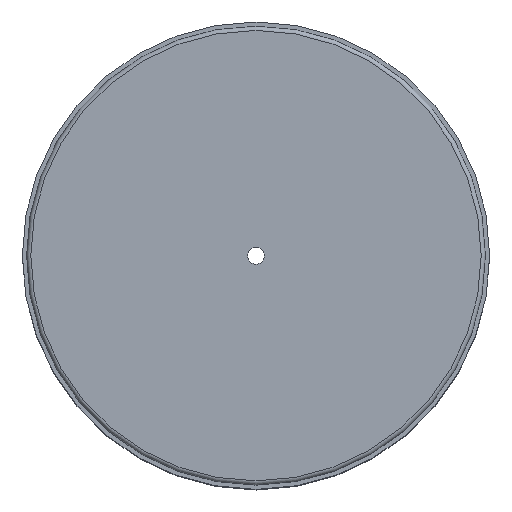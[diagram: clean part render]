
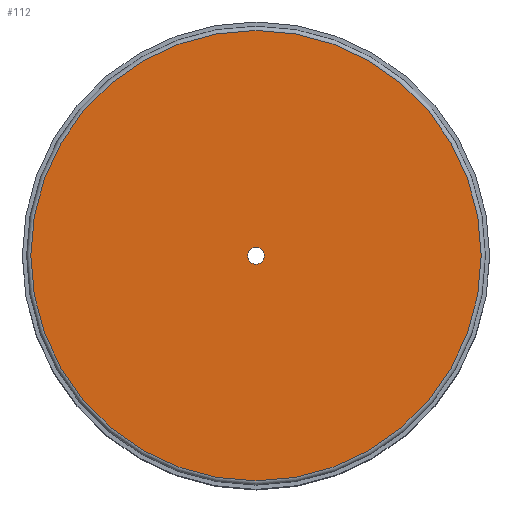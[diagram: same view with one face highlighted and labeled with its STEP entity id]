
A CAD part, top view. The second image highlights one B-rep face of the part: STEP entity #112.
In plain terms, the highlighted planar face has unit normal (0, 0, 1).
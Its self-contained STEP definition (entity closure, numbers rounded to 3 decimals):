
#112 = ADVANCED_FACE( '', ( #222, #223 ), #224, .T. );
#222 = FACE_BOUND( '', #348, .T. );
#223 = FACE_OUTER_BOUND( '', #349, .T. );
#224 = PLANE( '', #350 );
#348 = EDGE_LOOP( '', ( #480 ) );
#349 = EDGE_LOOP( '', ( #481 ) );
#350 = AXIS2_PLACEMENT_3D( '', #482, #483, #484 );
#480 = ORIENTED_EDGE( '', *, *, #608, .F. );
#481 = ORIENTED_EDGE( '', *, *, #614, .T. );
#482 = CARTESIAN_POINT( '', ( -27., 0., 18. ) );
#483 = DIRECTION( '', ( 0., 0., 1. ) );
#484 = DIRECTION( '', ( 1., 0., 0. ) );
#608 = EDGE_CURVE( '', #672, #672, #673, .T. );
#614 = EDGE_CURVE( '', #682, #682, #683, .T. );
#672 = VERTEX_POINT( '', #756 );
#673 = CIRCLE( '', #757, 1. );
#682 = VERTEX_POINT( '', #766 );
#683 = CIRCLE( '', #767, 26.5 );
#756 = CARTESIAN_POINT( '', ( 1., 0., 18. ) );
#757 = AXIS2_PLACEMENT_3D( '', #842, #843, #844 );
#766 = CARTESIAN_POINT( '', ( 26.5, 0., 18. ) );
#767 = AXIS2_PLACEMENT_3D( '', #854, #855, #856 );
#842 = CARTESIAN_POINT( '', ( 0., 0., 18. ) );
#843 = DIRECTION( '', ( 0., 0., 1. ) );
#844 = DIRECTION( '', ( 1., 0., 0. ) );
#854 = CARTESIAN_POINT( '', ( 0., 0., 18. ) );
#855 = DIRECTION( '', ( 0., 0., 1. ) );
#856 = DIRECTION( '', ( 1., 0., 0. ) );
